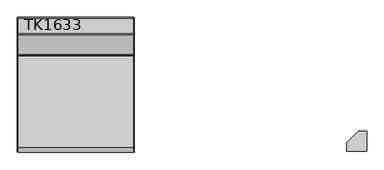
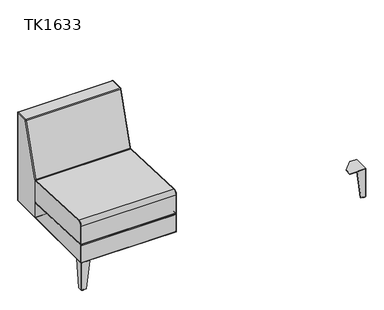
"""IFC4 building model written with IfcOpenShell, lengths in millimetres: furniture geometry, JSI-Teekan-Three_Seat_Lounge : TK1633."""

from ifc_helpers import new_model, si_unit, point, frame, origin, place, context, project, spatial, polyline, circle_curve, ellipse_curve, trimmed, outline, extrude, source, transform, mapped, element, save
from ifc_brep_helpers import plane_surface, cylinder_surface, revolved_surface, spline_surface, advanced_brep


def tk1633_d6f510f4(model_context):
    return source(origin(), model_context, "Body", "SolidModel", [
        advanced_brep(
        [(-304.9984375, 148.7693192, 295.6513391), (-304.9984375, 153.733973, 300.4095468), (-302.6171875, 151.352723, 300.4095468), (-302.6171875, 148.8703961, 298.0304429), (-905.4703125, 148.7693192, 295.6513391), (-905.4703125, 153.733973, 300.4095468), (-907.8515625, 148.8703961, 298.0304429), (-907.8515625, 151.352723, 300.4095468), (-302.6171875, -344.5512855, 318.9936072), (-304.9984375, -344.6523625, 316.6145034), (-905.4703125, -344.6523625, 316.6145034), (-907.8515625, -344.5512855, 318.9936072), (-304.9984375, -322.7527962, 467.50355), (-302.6171875, -322.8538731, 465.1244462), (-302.6171875, 149.0725499, 445.0745142), (-304.9984375, 149.1736269, 447.4536181), (-905.4703125, 149.1736269, 447.4536181), (-905.4703125, -322.7527962, 467.50355), (-907.8515625, 149.0725499, 445.0745142), (-907.8515625, -322.8538731, 465.1244462), (-302.6171875, 151.352723, 442.6954104), (-304.9984375, 153.733973, 442.6954104), (-905.4703125, 153.733973, 442.6954104), (-907.8515625, 151.352723, 442.6954104), (-302.6171875, -346.8497, 321.3917439), (-304.9984375, -349.23095, 321.3917439), (-905.4703125, -349.23095, 321.3917439), (-907.8515625, -346.8497, 321.3917439), (-302.6171875, -346.8497, 442.1264425), (-304.9984375, -349.23095, 442.1264425), (-905.4703125, -349.23095, 442.1264425), (-907.8515625, -346.8497, 442.1264425)],
        [
            (0, 1, circle_curve(frame((-304.9984375, 148.971473, 300.4095468), z_axis=(1.0, 0.0, 0.0), x_axis=(0.0, 1.0, 0.0)), 4.7625)),
            (1, 2, circle_curve(frame((-304.9984375, 151.352723, 300.4095468), z_axis=(0.0, 0.0, -1.0), x_axis=(1.0, 0.0, 0.0)), 2.38125)),
            (2, 3, circle_curve(frame((-302.6171875, 148.971473, 300.4095468), z_axis=(-1.0, 0.0, 0.0), x_axis=(0.0, 1.0, 0.0)), 2.38125)),
            (3, 0, circle_curve(frame((-304.9984375, 148.8703961, 298.0304429), z_axis=(0.0, 0.9990987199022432, -0.04244700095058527), x_axis=(1.0, 0.0, 0.0)), 2.38125)),
            (0, 4),
            (4, 5, circle_curve(frame((-905.4703125, 148.971473, 300.4095468), z_axis=(1.0, 0.0, 0.0), x_axis=(0.0, 1.0, 0.0)), 4.7625)),
            (5, 1),
            (4, 6, circle_curve(frame((-905.4703125, 148.8703961, 298.0304429), z_axis=(0.0, 0.999098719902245, -0.042447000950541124), x_axis=(1.0, 0.0, 0.0)), 2.38125)),
            (6, 7, circle_curve(frame((-907.8515625, 148.971473, 300.4095468), z_axis=(1.0, 0.0, 0.0), x_axis=(0.0, 1.0, 0.0)), 2.38125)),
            (7, 5, circle_curve(frame((-905.4703125, 151.352723, 300.4095468), z_axis=(0.0, 0.0, -1.0), x_axis=(1.0, 0.0, 0.0)), 2.38125)),
            (3, 8),
            (8, 9, circle_curve(frame((-304.9984375, -344.5512855, 318.9936072), z_axis=(0.0, 0.9990987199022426, -0.04244700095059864), x_axis=(1.0, 0.0, 0.0)), 2.38125)),
            (9, 0),
            (9, 10),
            (10, 4),
            (10, 11, circle_curve(frame((-905.4703125, -344.5512855, 318.9936072), z_axis=(0.0, 0.9990987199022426, -0.04244700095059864), x_axis=(1.0, 0.0, 0.0)), 2.38125)),
            (11, 6),
            (12, 13, circle_curve(frame((-304.9984375, -322.8538731, 465.1244462), z_axis=(0.0, 0.9990987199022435, -0.0424470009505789), x_axis=(1.0, 0.0, 0.0)), 2.38125)),
            (13, 14),
            (14, 15, circle_curve(frame((-304.9984375, 149.0725499, 445.0745142), z_axis=(0.0, -0.9990987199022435, 0.0424470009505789), x_axis=(1.0, 0.0, 0.0)), 2.38125)),
            (15, 12),
            (15, 16),
            (16, 17),
            (17, 12),
            (16, 18, circle_curve(frame((-905.4703125, 149.0725499, 445.0745142), z_axis=(0.0, -0.9990987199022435, 0.0424470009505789), x_axis=(1.0, 0.0, 0.0)), 2.38125)),
            (18, 19),
            (19, 17, circle_curve(frame((-905.4703125, -322.8538731, 465.1244462), z_axis=(0.0, 0.9990987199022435, -0.0424470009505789), x_axis=(1.0, 0.0, 0.0)), 2.38125)),
            (14, 20, circle_curve(frame((-302.6171875, 148.971473, 442.6954104), z_axis=(-1.0, 0.0, 0.0), x_axis=(0.0, 0.04244700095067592, 0.9990987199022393)), 2.38125)),
            (20, 21, circle_curve(frame((-304.9984375, 151.352723, 442.6954104), z_axis=(0.0, 0.0, 1.0), x_axis=(1.0, 0.0, 0.0)), 2.38125)),
            (21, 15, circle_curve(frame((-304.9984375, 148.971473, 442.6954104), z_axis=(1.0, 0.0, 0.0), x_axis=(0.0, 0.04244700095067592, 0.9990987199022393)), 4.7625)),
            (21, 22),
            (22, 16, circle_curve(frame((-905.4703125, 148.971473, 442.6954104), z_axis=(1.0, 0.0, 0.0), x_axis=(0.0, 0.04244700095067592, 0.9990987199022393)), 4.7625)),
            (22, 23, circle_curve(frame((-905.4703125, 151.352723, 442.6954104), z_axis=(0.0, 0.0, 1.0), x_axis=(1.0, 0.0, 0.0)), 2.38125)),
            (23, 18, circle_curve(frame((-907.8515625, 148.971473, 442.6954104), z_axis=(1.0, 0.0, 0.0), x_axis=(0.0, 0.04244700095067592, 0.9990987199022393)), 2.38125)),
            (1, 21),
            (20, 2),
            (5, 22),
            (7, 23),
            (8, 24, circle_curve(frame((-302.6171875, -344.4494, 321.3917439), z_axis=(-1.0, 0.0, 0.0), x_axis=(0.0, -0.04244700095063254, -0.9990987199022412)), 2.4003)),
            (24, 25, circle_curve(frame((-304.9984375, -346.8497, 321.3917439), z_axis=(0.0, 0.0, -1.0), x_axis=(1.0, 0.0, 0.0)), 2.38125)),
            (25, 9, circle_curve(frame((-304.9984375, -344.4494, 321.3917439), z_axis=(1.0, 0.0, 0.0), x_axis=(0.0, -0.04244700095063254, -0.9990987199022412)), 4.78155)),
            (25, 26),
            (26, 10, circle_curve(frame((-905.4703125, -344.4494, 321.3917439), z_axis=(1.0, 0.0, 0.0), x_axis=(0.0, -0.04244700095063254, -0.9990987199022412)), 4.78155)),
            (26, 27, circle_curve(frame((-905.4703125, -346.8497, 321.3917439), z_axis=(0.0, 0.0, -1.0), x_axis=(1.0, 0.0, 0.0)), 2.38125)),
            (27, 11, circle_curve(frame((-907.8515625, -344.4494, 321.3917439), z_axis=(1.0, 0.0, 0.0), x_axis=(0.0, -0.04244700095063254, -0.9990987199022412)), 2.4003)),
            (24, 28),
            (28, 29, circle_curve(frame((-304.9984375, -346.8497, 442.1264425), z_axis=(0.0, 0.0, -1.0), x_axis=(1.0, 0.0, 0.0)), 2.38125)),
            (29, 25),
            (29, 30),
            (30, 26),
            (30, 31, circle_curve(frame((-905.4703125, -346.8497, 442.1264425), z_axis=(0.0, 0.0, -1.0), x_axis=(1.0, 0.0, 0.0)), 2.38125)),
            (31, 27),
            (13, 28, circle_curve(frame((-302.6171875, -323.83095, 442.1264425), z_axis=(1.0, 0.0, 0.0), x_axis=(0.0, -1.0, 0.0)), 23.01875)),
            (12, 29, circle_curve(frame((-304.9984375, -323.83095, 442.1264425), z_axis=(1.0, 0.0, 0.0), x_axis=(0.0, -1.0, 0.0)), 25.4)),
            (17, 30, circle_curve(frame((-905.4703125, -323.83095, 442.1264425), z_axis=(1.0, 0.0, 0.0), x_axis=(0.0, -1.0, 0.0)), 25.4)),
            (19, 31, circle_curve(frame((-907.8515625, -323.83095, 442.1264425), z_axis=(1.0, 0.0, 0.0), x_axis=(0.0, -1.0, 0.0)), 23.01875)),
        ],
        [
            revolved_surface(trimmed(ellipse_curve(frame((-304.9984375, 151.352723, 300.4095468), z_axis=(0.0, 0.0, 1.0), x_axis=(1.0, 0.0, 0.0)), 2.38125, 2.38125), [point((-302.6171875, 151.352723, 300.4095468))], [point((-304.9984375, 153.733973, 300.4095468))], True, "CARTESIAN"), (-605.234375, 148.971473, 300.4095468), (-1.0, 0.0, 0.0)),
            cylinder_surface(frame((-605.234375, 148.971473, 300.4095468), z_axis=(-1.0, 0.0, 0.0), x_axis=(0.0, 1.0, 0.0)), 4.7625),
            revolved_surface(trimmed(ellipse_curve(frame((-905.4703125, 151.352723, 300.4095468), z_axis=(0.0, 0.0, 1.0), x_axis=(1.0, 0.0, 0.0)), 2.38125, 2.38125), [point((-905.4703125, 153.733973, 300.4095468))], [point((-907.8515625, 151.352723, 300.4095468))], True, "CARTESIAN"), (-605.234375, 148.971473, 300.4095468), (-1.0, 0.0, 0.0)),
            cylinder_surface(frame((-304.9984375, 148.8703961, 298.0304429), z_axis=(0.0, 0.9990987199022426, -0.04244700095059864), x_axis=(1.0, 0.0, 0.0)), 2.38125),
            plane_surface(frame((-304.9984375, 148.7693192, 295.6513391), z_axis=(0.0, -0.04244700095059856, -0.9990987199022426), x_axis=(0.0, -0.9990987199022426, 0.04244700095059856))),
            cylinder_surface(frame((-905.4703125, 148.8703961, 298.0304429), z_axis=(0.0, 0.9990987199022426, -0.04244700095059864), x_axis=(1.0, 0.0, 0.0)), 2.38125),
            cylinder_surface(frame((-304.9984375, -322.8538731, 465.1244462), z_axis=(0.0, -0.9990987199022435, 0.0424470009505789), x_axis=(1.0, 0.0, 0.0)), 2.38125),
            plane_surface(frame((-304.9984375, -322.7527962, 467.50355), z_axis=(0.0, 0.04244700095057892, 0.9990987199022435), x_axis=(0.0, 0.9990987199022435, -0.04244700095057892))),
            cylinder_surface(frame((-905.4703125, -322.8538731, 465.1244462), z_axis=(0.0, -0.9990987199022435, 0.0424470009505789), x_axis=(1.0, 0.0, 0.0)), 2.38125),
            revolved_surface(trimmed(ellipse_curve(frame((-304.9984375, 149.0725499, 445.0745142), z_axis=(0.0, -0.9990987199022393, 0.04244700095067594), x_axis=(1.0, 0.0, 0.0)), 2.38125, 2.38125), [point((-302.6171875, 149.0725499, 445.0745142))], [point((-304.9984375, 149.1736269, 447.4536181))], True, "CARTESIAN"), (-605.234375, 148.971473, 442.6954104), (-1.0, 0.0, 0.0)),
            cylinder_surface(frame((-605.234375, 148.971473, 442.6954104), z_axis=(-1.0, 0.0, 0.0), x_axis=(0.0, 0.04244700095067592, 0.9990987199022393)), 4.7625),
            revolved_surface(trimmed(ellipse_curve(frame((-905.4703125, 149.0725499, 445.0745142), z_axis=(0.0, -0.9990987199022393, 0.04244700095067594), x_axis=(1.0, 0.0, 0.0)), 2.38125, 2.38125), [point((-905.4703125, 149.1736269, 447.4536181))], [point((-907.8515625, 149.0725499, 445.0745142))], True, "CARTESIAN"), (-605.234375, 148.971473, 442.6954104), (-1.0, 0.0, 0.0)),
            cylinder_surface(frame((-304.9984375, 151.352723, 442.6954104), z_axis=(0.0, 0.0, 1.0), x_axis=(1.0, 0.0, 0.0)), 2.38125),
            plane_surface(frame((-304.9984375, 153.733973, 442.6954104), z_axis=(0.0, 1.0, 0.0), x_axis=(0.0, 0.0, -1.0))),
            cylinder_surface(frame((-905.4703125, 151.352723, 442.6954104), z_axis=(0.0, 0.0, 1.0), x_axis=(1.0, 0.0, 0.0)), 2.38125),
            revolved_surface(trimmed(ellipse_curve(frame((-304.9984375, -344.5512855, 318.9936072), z_axis=(0.0, 0.9990987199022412, -0.042447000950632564), x_axis=(1.0, 0.0, 0.0)), 2.38125, 2.38125), [point((-302.6171875, -344.5512855, 318.9936072))], [point((-304.9984375, -344.6523625, 316.6145034))], True, "CARTESIAN"), (-605.234375, -344.4494, 321.3917439), (-1.0, 0.0, 0.0)),
            cylinder_surface(frame((-605.234375, -344.4494, 321.3917439), z_axis=(-1.0, 0.0, 0.0), x_axis=(0.0, -0.04244700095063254, -0.9990987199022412)), 4.78155),
            revolved_surface(trimmed(ellipse_curve(frame((-905.4703125, -344.5512855, 318.9936072), z_axis=(0.0, 0.9990987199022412, -0.042447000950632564), x_axis=(1.0, 0.0, 0.0)), 2.38125, 2.38125), [point((-905.4703125, -344.6523625, 316.6145034))], [point((-907.8515625, -344.5512855, 318.9936072))], True, "CARTESIAN"), (-605.234375, -344.4494, 321.3917439), (-1.0, 0.0, 0.0)),
            cylinder_surface(frame((-304.9984375, -346.8497, 321.3917439), z_axis=(0.0, 0.0, -1.0), x_axis=(1.0, 0.0, 0.0)), 2.38125),
            plane_surface(frame((-304.9984375, -349.23095, 321.3917439), z_axis=(0.0, -1.0, 0.0), x_axis=(0.0, 0.0, 1.0))),
            cylinder_surface(frame((-905.4703125, -346.8497, 321.3917439), z_axis=(0.0, 0.0, -1.0), x_axis=(1.0, 0.0, 0.0)), 2.38125),
            plane_surface(frame((-302.6171875, -323.83095, 442.1264425), z_axis=(1.0, 0.0, 0.0), x_axis=(0.0, -1.0, 0.0))),
            revolved_surface(trimmed(ellipse_curve(frame((-304.9984375, -346.8497, 442.1264425), z_axis=(0.0, 0.0, -1.0), x_axis=(1.0, 0.0, 0.0)), 2.38125, 2.38125), [point((-302.6171875, -346.8497, 442.1264425))], [point((-304.9984375, -349.23095, 442.1264425))], True, "CARTESIAN"), (-605.234375, -323.83095, 442.1264425), (-1.0, 0.0, 0.0)),
            cylinder_surface(frame((-605.234375, -323.83095, 442.1264425), z_axis=(-1.0, 0.0, 0.0), x_axis=(0.0, -1.0, 0.0)), 25.4),
            revolved_surface(trimmed(ellipse_curve(frame((-905.4703125, -346.8497, 442.1264425), z_axis=(0.0, 0.0, -1.0), x_axis=(1.0, 0.0, 0.0)), 2.38125, 2.38125), [point((-905.4703125, -349.23095, 442.1264425))], [point((-907.8515625, -346.8497, 442.1264425))], True, "CARTESIAN"), (-605.234375, -323.83095, 442.1264425), (-1.0, 0.0, 0.0)),
            plane_surface(frame((-907.8515625, -323.83095, 442.1264425), z_axis=(-1.0, 0.0, 0.0), x_axis=(0.0, -1.0, 0.0))),
        ],
        [
            (0, [[1, 2, 3, 4]]),
            (1, [[-1, 5, 6, 7]]),
            (2, [[-6, 8, 9, 10]]),
            (3, [[-4, 11, 12, 13]]),
            (4, [[-5, -13, 14, 15]]),
            (5, [[-8, -15, 16, 17]]),
            (6, [[18, 19, 20, 21]]),
            (7, [[-21, 22, 23, 24]]),
            (8, [[-23, 25, 26, 27]]),
            (9, [[-20, 28, 29, 30]]),
            (10, [[-22, -30, 31, 32]]),
            (11, [[-25, -32, 33, 34]]),
            (12, [[-2, 35, -29, 36]]),
            (13, [[-7, 37, -31, -35]]),
            (14, [[-10, 38, -33, -37]]),
            (15, [[-12, 39, 40, 41]]),
            (16, [[-14, -41, 42, 43]]),
            (17, [[-16, -43, 44, 45]]),
            (18, [[-40, 46, 47, 48]]),
            (19, [[-42, -48, 49, 50]]),
            (20, [[-44, -50, 51, 52]]),
            (21, [[-3, -36, -28, -19, 53, -46, -39, -11]]),
            (22, [[-18, 54, -47, -53]]),
            (23, [[-24, 55, -49, -54]]),
            (24, [[-27, 56, -51, -55]]),
            (25, [[-9, -17, -45, -52, -56, -26, -34, -38]]),
        ],
    ),
        advanced_brep(
        [(-905.4703125, -349.25, 197.5346851), (-304.9984375, -349.25, 197.5346851), (-304.9984375, -349.25, 311.8407029), (-905.4703125, -349.25, 311.8407029), (-907.8515625, -346.86875, 311.8407029), (-907.8515625, -346.86875, 197.5346851), (-302.6171875, -346.86875, 197.5346851), (-302.6171875, -346.86875, 311.8407029), (-905.4703125, -344.2853462, 316.5989106), (-304.9984375, -344.2853462, 316.5989106), (-304.9984375, 149.169864, 295.6343219), (-905.4703125, 149.169864, 295.6343219), (-907.8515625, 149.0687871, 293.255218), (-907.8515625, -344.3864231, 314.2198068), (-302.6171875, -344.3864231, 314.2198068), (-302.6171875, 149.0687871, 293.255218), (-304.9984375, 153.7302102, 290.8761142), (-905.4703125, 153.7302102, 290.8761142), (-907.8515625, 151.3489602, 290.8761142), (-302.6171875, 151.3489602, 290.8761142), (-304.9984375, 153.7302102, 197.5346851), (-905.4703125, 153.7302102, 197.5346851), (-907.8515625, 151.3489602, 197.5346851), (-302.6171875, 151.3489602, 197.5346851), (-304.9984375, 148.9677102, 192.7721851), (-905.4703125, 148.9677102, 192.7721851), (-907.8515625, 148.9677102, 195.1534351), (-302.6171875, 148.9677102, 195.1534351), (-304.9984375, -344.4875, 192.7721851), (-905.4703125, -344.4875, 192.7721851), (-907.8515625, -344.4875, 195.1534351), (-302.6171875, -344.4875, 195.1534351)],
        [
            (0, 1),
            (1, 2),
            (2, 3),
            (3, 0),
            (3, 4, circle_curve(frame((-905.4703125, -346.86875, 311.8407029), z_axis=(0.0, 0.0, -1.0), x_axis=(0.0, -1.0, 0.0)), 2.38125)),
            (4, 5),
            (5, 0, circle_curve(frame((-905.4703125, -346.86875, 197.5346851), z_axis=(0.0, 0.0, 1.0), x_axis=(0.0, -1.0, 0.0)), 2.38125)),
            (1, 6, circle_curve(frame((-304.9984375, -346.86875, 197.5346851), z_axis=(0.0, 0.0, 1.0), x_axis=(0.0, -1.0, 0.0)), 2.38125)),
            (6, 7),
            (7, 2, circle_curve(frame((-304.9984375, -346.86875, 311.8407029), z_axis=(0.0, 0.0, -1.0), x_axis=(0.0, -1.0, 0.0)), 2.38125)),
            (8, 9),
            (9, 10),
            (10, 11),
            (11, 8),
            (11, 12, circle_curve(frame((-905.4703125, 149.0687871, 293.255218), z_axis=(0.0, -0.9990987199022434, 0.04244700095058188), x_axis=(0.0, 0.04244700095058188, 0.9990987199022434)), 2.38125)),
            (12, 13),
            (13, 8, circle_curve(frame((-905.4703125, -344.3864231, 314.2198068), z_axis=(0.0, 0.9990987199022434, -0.04244700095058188), x_axis=(0.0, 0.04244700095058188, 0.9990987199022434)), 2.38125)),
            (9, 14, circle_curve(frame((-304.9984375, -344.3864231, 314.2198068), z_axis=(0.0, 0.9990987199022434, -0.04244700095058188), x_axis=(0.0, 0.04244700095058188, 0.9990987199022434)), 2.38125)),
            (14, 15),
            (15, 10, circle_curve(frame((-304.9984375, 149.0687871, 293.255218), z_axis=(0.0, -0.9990987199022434, 0.04244700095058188), x_axis=(0.0, 0.04244700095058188, 0.9990987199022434)), 2.38125)),
            (10, 16, circle_curve(frame((-304.9984375, 148.9677102, 290.8761142), z_axis=(-1.0, 0.0, 0.0), x_axis=(0.0, 0.0424470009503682, 0.9990987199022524)), 4.7625)),
            (16, 17),
            (17, 11, circle_curve(frame((-905.4703125, 148.9677102, 290.8761142), z_axis=(1.0, 0.0, 0.0), x_axis=(0.0, 0.0424470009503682, 0.9990987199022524)), 4.7625)),
            (17, 18, circle_curve(frame((-905.4703125, 151.3489602, 290.8761142), z_axis=(0.0, 0.0, 1.0), x_axis=(0.0, 1.0, 0.0)), 2.38125)),
            (18, 12, circle_curve(frame((-907.8515625, 148.9677102, 290.8761142), z_axis=(1.0, 0.0, 0.0), x_axis=(0.0, 0.0424470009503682, 0.9990987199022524)), 2.38125)),
            (15, 19, circle_curve(frame((-302.6171875, 148.9677102, 290.8761142), z_axis=(-1.0, 0.0, 0.0), x_axis=(0.0, 0.0424470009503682, 0.9990987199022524)), 2.38125)),
            (19, 16, circle_curve(frame((-304.9984375, 151.3489602, 290.8761142), z_axis=(0.0, 0.0, 1.0), x_axis=(0.0, 1.0, 0.0)), 2.38125)),
            (16, 20),
            (20, 21),
            (21, 17),
            (21, 22, circle_curve(frame((-905.4703125, 151.3489602, 197.5346851), z_axis=(0.0, 0.0, 1.0), x_axis=(0.0, 1.0, 0.0)), 2.38125)),
            (22, 18),
            (19, 23),
            (23, 20, circle_curve(frame((-304.9984375, 151.3489602, 197.5346851), z_axis=(0.0, 0.0, 1.0), x_axis=(0.0, 1.0, 0.0)), 2.38125)),
            (20, 24, circle_curve(frame((-304.9984375, 148.9677102, 197.5346851), z_axis=(-1.0, 0.0, 0.0), x_axis=(0.0, 1.0, 0.0)), 4.7625)),
            (24, 25),
            (25, 21, circle_curve(frame((-905.4703125, 148.9677102, 197.5346851), z_axis=(1.0, 0.0, 0.0), x_axis=(0.0, 1.0, 0.0)), 4.7625)),
            (25, 26, circle_curve(frame((-905.4703125, 148.9677102, 195.1534351), z_axis=(0.0, 1.0, 0.0), x_axis=(0.0, 0.0, -1.0)), 2.38125)),
            (26, 22, circle_curve(frame((-907.8515625, 148.9677102, 197.5346851), z_axis=(1.0, 0.0, 0.0), x_axis=(0.0, 1.0, 0.0)), 2.38125)),
            (23, 27, circle_curve(frame((-302.6171875, 148.9677102, 197.5346851), z_axis=(-1.0, 0.0, 0.0), x_axis=(0.0, 1.0, 0.0)), 2.38125)),
            (27, 24, circle_curve(frame((-304.9984375, 148.9677102, 195.1534351), z_axis=(0.0, 1.0, 0.0), x_axis=(0.0, 0.0, -1.0)), 2.38125)),
            (24, 28),
            (28, 29),
            (29, 25),
            (29, 30, circle_curve(frame((-905.4703125, -344.4875, 195.1534351), z_axis=(0.0, 1.0, 0.0), x_axis=(0.0, 0.0, -1.0)), 2.38125)),
            (30, 26),
            (27, 31),
            (31, 28, circle_curve(frame((-304.9984375, -344.4875, 195.1534351), z_axis=(0.0, 1.0, 0.0), x_axis=(0.0, 0.0, -1.0)), 2.38125)),
            (0, 29, circle_curve(frame((-905.4703125, -344.4875, 197.5346851), z_axis=(1.0, 0.0, 0.0), x_axis=(0.0, 0.0, -1.0)), 4.7625)),
            (28, 1, circle_curve(frame((-304.9984375, -344.4875, 197.5346851), z_axis=(-1.0, 0.0, 0.0), x_axis=(0.0, 0.0, -1.0)), 4.7625)),
            (5, 30, circle_curve(frame((-907.8515625, -344.4875, 197.5346851), z_axis=(1.0, 0.0, 0.0), x_axis=(0.0, 0.0, -1.0)), 2.38125)),
            (31, 6, circle_curve(frame((-302.6171875, -344.4875, 197.5346851), z_axis=(-1.0, 0.0, 0.0), x_axis=(0.0, 0.0, -1.0)), 2.38125)),
            (2, 9, circle_curve(frame((-304.9984375, -344.4875, 311.8407029), z_axis=(-1.0, 0.0, 0.0), x_axis=(0.0, -1.0, 0.0)), 4.7625)),
            (8, 3, circle_curve(frame((-905.4703125, -344.4875, 311.8407029), z_axis=(1.0, 0.0, 0.0), x_axis=(0.0, -1.0, 0.0)), 4.7625)),
            (13, 4, circle_curve(frame((-907.8515625, -344.4875, 311.8407029), z_axis=(1.0, 0.0, 0.0), x_axis=(0.0, -1.0, 0.0)), 2.38125)),
            (14, 7, circle_curve(frame((-302.6171875, -344.4875, 311.8407029), z_axis=(1.0, 0.0, 0.0), x_axis=(0.0, -1.0, 0.0)), 2.38125)),
        ],
        [
            plane_surface(frame((-304.9984375, -349.25, 197.5346851), z_axis=(0.0, -1.0, 0.0), x_axis=(0.0, 0.0, 1.0))),
            cylinder_surface(frame((-905.4703125, -346.86875, 197.5346851), z_axis=(0.0, 0.0, -1.0), x_axis=(0.0, -1.0, 0.0)), 2.38125),
            cylinder_surface(frame((-304.9984375, -346.86875, 197.5346851), z_axis=(0.0, 0.0, -1.0), x_axis=(0.0, -1.0, 0.0)), 2.38125),
            plane_surface(frame((-304.9984375, -344.2853462, 316.5989106), z_axis=(0.0, 0.04244700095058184, 0.9990987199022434), x_axis=(0.0, 0.9990987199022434, -0.04244700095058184))),
            cylinder_surface(frame((-905.4703125, -344.3864231, 314.2198068), z_axis=(0.0, -0.9990987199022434, 0.04244700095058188), x_axis=(0.0, 0.04244700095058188, 0.9990987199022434)), 2.38125),
            cylinder_surface(frame((-304.9984375, -344.3864231, 314.2198068), z_axis=(0.0, -0.9990987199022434, 0.04244700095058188), x_axis=(0.0, 0.04244700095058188, 0.9990987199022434)), 2.38125),
            cylinder_surface(frame((-605.234375, 148.9677102, 290.8761142), z_axis=(-1.0, 0.0, 0.0), x_axis=(0.0, 0.0424470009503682, 0.9990987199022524)), 4.7625),
            revolved_surface(trimmed(ellipse_curve(frame((-905.4703125, 149.0687871, 293.255218), z_axis=(0.0, -0.9990987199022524, 0.042447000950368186), x_axis=(0.0, 0.042447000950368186, 0.9990987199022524)), 2.38125, 2.38125), [point((-905.4703125, 149.169864, 295.6343219))], [point((-907.8515625, 149.0687871, 293.255218))], True, "CARTESIAN"), (-605.234375, 148.9677102, 290.8761142), (-1.0, 0.0, 0.0)),
            revolved_surface(trimmed(ellipse_curve(frame((-304.9984375, 149.0687871, 293.255218), z_axis=(0.0, -0.9990987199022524, 0.042447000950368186), x_axis=(0.0, 0.042447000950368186, 0.9990987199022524)), 2.38125, 2.38125), [point((-302.6171875, 149.0687871, 293.255218))], [point((-304.9984375, 149.169864, 295.6343219))], True, "CARTESIAN"), (-605.234375, 148.9677102, 290.8761142), (-1.0, 0.0, 0.0)),
            plane_surface(frame((-304.9984375, 153.7302102, 290.8761142), z_axis=(0.0, 1.0, 0.0), x_axis=(0.0, 0.0, -1.0))),
            cylinder_surface(frame((-905.4703125, 151.3489602, 290.8761142), z_axis=(0.0, 0.0, 1.0), x_axis=(0.0, 1.0, 0.0)), 2.38125),
            cylinder_surface(frame((-304.9984375, 151.3489602, 290.8761142), z_axis=(0.0, 0.0, 1.0), x_axis=(0.0, 1.0, 0.0)), 2.38125),
            cylinder_surface(frame((-605.234375, 148.9677102, 197.5346851), z_axis=(-1.0, 0.0, 0.0), x_axis=(0.0, 1.0, 0.0)), 4.7625),
            revolved_surface(trimmed(ellipse_curve(frame((-905.4703125, 151.3489602, 197.5346851), z_axis=(0.0, 0.0, 1.0), x_axis=(0.0, 1.0, 0.0)), 2.38125, 2.38125), [point((-905.4703125, 153.7302102, 197.5346851))], [point((-907.8515625, 151.3489602, 197.5346851))], True, "CARTESIAN"), (-605.234375, 148.9677102, 197.5346851), (-1.0, 0.0, 0.0)),
            revolved_surface(trimmed(ellipse_curve(frame((-304.9984375, 151.3489602, 197.5346851), z_axis=(0.0, 0.0, 1.0), x_axis=(0.0, 1.0, 0.0)), 2.38125, 2.38125), [point((-302.6171875, 151.3489602, 197.5346851))], [point((-304.9984375, 153.7302102, 197.5346851))], True, "CARTESIAN"), (-605.234375, 148.9677102, 197.5346851), (-1.0, 0.0, 0.0)),
            plane_surface(frame((-304.9984375, 148.9677102, 192.7721851), z_axis=(0.0, 0.0, -1.0), x_axis=(0.0, -1.0, 0.0))),
            cylinder_surface(frame((-905.4703125, 148.9677102, 195.1534351), z_axis=(0.0, 1.0, 0.0), x_axis=(0.0, 0.0, -1.0)), 2.38125),
            cylinder_surface(frame((-304.9984375, 148.9677102, 195.1534351), z_axis=(0.0, 1.0, 0.0), x_axis=(0.0, 0.0, -1.0)), 2.38125),
            cylinder_surface(frame((-605.234375, -344.4875, 197.5346851), z_axis=(-1.0, 0.0, 0.0), x_axis=(0.0, 0.0, -1.0)), 4.7625),
            revolved_surface(trimmed(ellipse_curve(frame((-905.4703125, -344.4875, 195.1534351), z_axis=(0.0, 1.0, 0.0), x_axis=(0.0, 0.0, -1.0)), 2.38125, 2.38125), [point((-905.4703125, -344.4875, 192.7721851))], [point((-907.8515625, -344.4875, 195.1534351))], True, "CARTESIAN"), (-605.234375, -344.4875, 197.5346851), (-1.0, 0.0, 0.0)),
            revolved_surface(trimmed(ellipse_curve(frame((-304.9984375, -344.4875, 195.1534351), z_axis=(0.0, 1.0, 0.0), x_axis=(0.0, 0.0, -1.0)), 2.38125, 2.38125), [point((-302.6171875, -344.4875, 195.1534351))], [point((-304.9984375, -344.4875, 192.7721851))], True, "CARTESIAN"), (-605.234375, -344.4875, 197.5346851), (-1.0, 0.0, 0.0)),
            cylinder_surface(frame((-605.234375, -344.4875, 311.8407029), z_axis=(-1.0, 0.0, 0.0), x_axis=(0.0, -1.0, 0.0)), 4.7625),
            revolved_surface(trimmed(ellipse_curve(frame((-905.4703125, -346.86875, 311.8407029), z_axis=(0.0, 0.0, -1.0), x_axis=(0.0, -1.0, 0.0)), 2.38125, 2.38125), [point((-905.4703125, -349.25, 311.8407029))], [point((-907.8515625, -346.86875, 311.8407029))], True, "CARTESIAN"), (-605.234375, -344.4875, 311.8407029), (-1.0, 0.0, 0.0)),
            plane_surface(frame((-907.8515625, -344.4875, 311.8407029), z_axis=(-1.0, 0.0, 0.0), x_axis=(0.0, -1.0, 0.0))),
            plane_surface(frame((-302.6171875, -344.4875, 311.8407029), z_axis=(1.0, 0.0, 0.0), x_axis=(0.0, -1.0, 0.0))),
            revolved_surface(trimmed(ellipse_curve(frame((-304.9984375, -346.86875, 311.8407029), z_axis=(0.0, 0.0, -1.0), x_axis=(0.0, -1.0, 0.0)), 2.38125, 2.38125), [point((-302.6171875, -346.86875, 311.8407029))], [point((-304.9984375, -349.25, 311.8407029))], True, "CARTESIAN"), (-605.234375, -344.4875, 311.8407029), (-1.0, 0.0, 0.0)),
        ],
        [
            (0, [[1, 2, 3, 4]]),
            (1, [[-4, 5, 6, 7]]),
            (2, [[-2, 8, 9, 10]]),
            (3, [[11, 12, 13, 14]]),
            (4, [[-14, 15, 16, 17]]),
            (5, [[-12, 18, 19, 20]]),
            (6, [[-13, 21, 22, 23]]),
            (7, [[-15, -23, 24, 25]]),
            (8, [[-20, 26, 27, -21]]),
            (9, [[-22, 28, 29, 30]]),
            (10, [[-24, -30, 31, 32]]),
            (11, [[-27, 33, 34, -28]]),
            (12, [[-29, 35, 36, 37]]),
            (13, [[-31, -37, 38, 39]]),
            (14, [[-34, 40, 41, -35]]),
            (15, [[-36, 42, 43, 44]]),
            (16, [[-38, -44, 45, 46]]),
            (17, [[-41, 47, 48, -42]]),
            (18, [[-1, 49, -43, 50]]),
            (19, [[-7, 51, -45, -49]]),
            (20, [[-8, -50, -48, 52]]),
            (21, [[-3, 53, -11, 54]]),
            (22, [[-5, -54, -17, 55]]),
            (23, [[-6, -55, -16, -25, -32, -39, -46, -51]]),
            (24, [[-9, -52, -47, -40, -33, -26, -19, 56]]),
            (25, [[-10, -56, -18, -53]]),
        ],
    ),
        advanced_brep(
        [(-302.6171875, 261.4671324, 783.3496278), (-302.6171875, 263.7394056, 785.01875), (-304.9984375, 263.7394056, 787.4), (-304.9984375, 259.1948592, 784.0617556), (-905.4703125, 259.1948592, 784.0617556), (-905.4703125, 263.7394056, 787.4), (-907.8515625, 263.7394056, 785.01875), (-907.8515625, 261.4671324, 783.3496278), (-304.9984375, 155.07802, 451.8434221), (-302.6171875, 157.3502932, 451.1312943), (-907.8515625, 157.3502932, 451.1312943), (-905.4703125, 155.07802, 451.8434221), (-304.9984375, 153.733973, 443.0605128), (-302.6171875, 156.115223, 443.0605128), (-907.8515625, 156.115223, 443.0605128), (-905.4703125, 153.733973, 443.0605128), (-304.9984375, 153.733973, 197.5346851), (-302.6171875, 156.115223, 197.5346851), (-907.8515625, 156.115223, 197.5346851), (-905.4703125, 153.733973, 197.5346851), (-304.9984375, 158.496473, 192.7721851), (-302.6171875, 158.496473, 195.1534351), (-907.8515625, 158.496473, 195.1534351), (-905.4703125, 158.496473, 192.7721851), (-304.9984375, 344.4875, 192.7721851), (-302.6171875, 344.4875, 195.1534351), (-907.8515625, 344.4875, 195.1534351), (-905.4703125, 344.4875, 192.7721851), (-304.9984375, 349.25, 197.5346851), (-302.6171875, 346.86875, 197.5346851), (-907.8515625, 346.86875, 197.5346851), (-905.4703125, 349.25, 197.5346851), (-304.9984375, 349.25, 782.6375), (-302.6171875, 346.86875, 782.6375), (-907.8515625, 346.86875, 782.6375), (-905.4703125, 349.25, 782.6375), (-304.9984375, 344.4875, 787.4), (-302.6171875, 344.4875, 785.01875), (-907.8515625, 344.4875, 785.01875), (-905.4703125, 344.4875, 787.4)],
        [
            (0, 1, circle_curve(frame((-302.6171875, 263.7394056, 782.6375), z_axis=(-1.0, 0.0, 0.0), x_axis=(0.0, 0.0, 1.0)), 2.38125)),
            (1, 2, circle_curve(frame((-304.9984375, 263.7394056, 785.01875), z_axis=(0.0, -1.0, 0.0), x_axis=(0.0, 0.0, -1.0)), 2.38125)),
            (2, 3, circle_curve(frame((-304.9984375, 263.7394056, 782.6375), z_axis=(1.0, 0.0, 0.0), x_axis=(0.0, 0.0, 1.0)), 4.7625)),
            (3, 0, circle_curve(frame((-304.9984375, 261.4671324, 783.3496278), z_axis=(0.0, 0.29905628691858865, 0.9542354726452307), x_axis=(0.0, 0.9542354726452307, -0.29905628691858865)), 2.38125)),
            (4, 5, circle_curve(frame((-905.4703125, 263.7394056, 782.6375), z_axis=(-1.0, 0.0, 0.0), x_axis=(0.0, 0.0, 1.0)), 4.7625)),
            (5, 6, circle_curve(frame((-905.4703125, 263.7394056, 785.01875), z_axis=(0.0, -1.0, 0.0), x_axis=(0.0, 0.0, -1.0)), 2.38125)),
            (6, 7, circle_curve(frame((-907.8515625, 263.7394056, 782.6375), z_axis=(1.0, 0.0, 0.0), x_axis=(0.0, 0.0, 1.0)), 2.38125)),
            (7, 4, circle_curve(frame((-905.4703125, 261.4671324, 783.3496278), z_axis=(0.0, 0.29905628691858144, 0.9542354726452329), x_axis=(0.0, 0.9542354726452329, -0.29905628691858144)), 2.38125)),
            (2, 5),
            (4, 3),
            (3, 8),
            (8, 9, circle_curve(frame((-304.9984375, 157.3502932, 451.1312943), z_axis=(0.0, 0.29905628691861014, 0.954235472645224), x_axis=(0.0, 0.954235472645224, -0.29905628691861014)), 2.38125)),
            (9, 0),
            (7, 10),
            (10, 11, circle_curve(frame((-905.4703125, 157.3502932, 451.1312943), z_axis=(0.0, 0.29905628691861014, 0.954235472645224), x_axis=(0.0, 0.954235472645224, -0.29905628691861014)), 2.38125)),
            (11, 4),
            (11, 8),
            (8, 12, circle_curve(frame((-304.9984375, 183.102723, 443.0605128), z_axis=(1.0, 0.0, 0.0), x_axis=(0.0, -0.9542354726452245, 0.29905628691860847)), 29.36875)),
            (12, 13, circle_curve(frame((-304.9984375, 156.115223, 443.0605128), z_axis=(0.0, 0.0, 1.0), x_axis=(0.0, 1.0, 0.0)), 2.38125)),
            (13, 9, circle_curve(frame((-302.6171875, 183.102723, 443.0605128), z_axis=(-1.0, 0.0, 0.0), x_axis=(0.0, -0.9542354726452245, 0.29905628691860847)), 26.9875)),
            (10, 14, circle_curve(frame((-907.8515625, 183.102723, 443.0605128), z_axis=(1.0, 0.0, 0.0), x_axis=(0.0, -0.9542354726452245, 0.29905628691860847)), 26.9875)),
            (14, 15, circle_curve(frame((-905.4703125, 156.115223, 443.0605128), z_axis=(0.0, 0.0, 1.0), x_axis=(0.0, 1.0, 0.0)), 2.38125)),
            (15, 11, circle_curve(frame((-905.4703125, 183.102723, 443.0605128), z_axis=(-1.0, 0.0, 0.0), x_axis=(0.0, -0.9542354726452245, 0.29905628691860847)), 29.36875)),
            (15, 12),
            (12, 16),
            (16, 17, circle_curve(frame((-304.9984375, 156.115223, 197.5346851), z_axis=(0.0, 0.0, 1.0), x_axis=(0.0, 1.0, 0.0)), 2.38125)),
            (17, 13),
            (14, 18),
            (18, 19, circle_curve(frame((-905.4703125, 156.115223, 197.5346851), z_axis=(0.0, 0.0, 1.0), x_axis=(0.0, 1.0, 0.0)), 2.38125)),
            (19, 15),
            (19, 16),
            (16, 20, circle_curve(frame((-304.9984375, 158.496473, 197.5346851), z_axis=(1.0, 0.0, 0.0), x_axis=(0.0, -1.0, 0.0)), 4.7625)),
            (20, 21, circle_curve(frame((-304.9984375, 158.496473, 195.1534351), z_axis=(0.0, -1.0, 0.0), x_axis=(0.0, 0.0, 1.0)), 2.38125)),
            (21, 17, circle_curve(frame((-302.6171875, 158.496473, 197.5346851), z_axis=(-1.0, 0.0, 0.0), x_axis=(0.0, -1.0, 0.0)), 2.38125)),
            (18, 22, circle_curve(frame((-907.8515625, 158.496473, 197.5346851), z_axis=(1.0, 0.0, 0.0), x_axis=(0.0, -1.0, 0.0)), 2.38125)),
            (22, 23, circle_curve(frame((-905.4703125, 158.496473, 195.1534351), z_axis=(0.0, -1.0, 0.0), x_axis=(0.0, 0.0, 1.0)), 2.38125)),
            (23, 19, circle_curve(frame((-905.4703125, 158.496473, 197.5346851), z_axis=(-1.0, 0.0, 0.0), x_axis=(0.0, -1.0, 0.0)), 4.7625)),
            (23, 20),
            (20, 24),
            (24, 25, circle_curve(frame((-304.9984375, 344.4875, 195.1534351), z_axis=(0.0, -1.0, 0.0), x_axis=(0.0, 0.0, 1.0)), 2.38125)),
            (25, 21),
            (22, 26),
            (26, 27, circle_curve(frame((-905.4703125, 344.4875, 195.1534351), z_axis=(0.0, -1.0, 0.0), x_axis=(0.0, 0.0, 1.0)), 2.38125)),
            (27, 23),
            (27, 24),
            (24, 28, circle_curve(frame((-304.9984375, 344.4875, 197.5346851), z_axis=(1.0, 0.0, 0.0), x_axis=(0.0, 0.0, -1.0)), 4.7625)),
            (28, 29, circle_curve(frame((-304.9984375, 346.86875, 197.5346851), z_axis=(0.0, 0.0, -1.0), x_axis=(0.0, -1.0, 0.0)), 2.38125)),
            (29, 25, circle_curve(frame((-302.6171875, 344.4875, 197.5346851), z_axis=(-1.0, 0.0, 0.0), x_axis=(0.0, 0.0, -1.0)), 2.38125)),
            (26, 30, circle_curve(frame((-907.8515625, 344.4875, 197.5346851), z_axis=(1.0, 0.0, 0.0), x_axis=(0.0, 0.0, -1.0)), 2.38125)),
            (30, 31, circle_curve(frame((-905.4703125, 346.86875, 197.5346851), z_axis=(0.0, 0.0, -1.0), x_axis=(0.0, -1.0, 0.0)), 2.38125)),
            (31, 27, circle_curve(frame((-905.4703125, 344.4875, 197.5346851), z_axis=(-1.0, 0.0, 0.0), x_axis=(0.0, 0.0, -1.0)), 4.7625)),
            (31, 28),
            (28, 32),
            (32, 33, circle_curve(frame((-304.9984375, 346.86875, 782.6375), z_axis=(0.0, 0.0, -1.0), x_axis=(0.0, -1.0, 0.0)), 2.38125)),
            (33, 29),
            (30, 34),
            (34, 35, circle_curve(frame((-905.4703125, 346.86875, 782.6375), z_axis=(0.0, 0.0, -1.0), x_axis=(0.0, -1.0, 0.0)), 2.38125)),
            (35, 31),
            (35, 32),
            (32, 36, circle_curve(frame((-304.9984375, 344.4875, 782.6375), z_axis=(1.0, 0.0, 0.0), x_axis=(0.0, 1.0, 0.0)), 4.7625)),
            (36, 37, circle_curve(frame((-304.9984375, 344.4875, 785.01875), z_axis=(0.0, 1.0, 0.0), x_axis=(0.0, 0.0, -1.0)), 2.38125)),
            (37, 33, circle_curve(frame((-302.6171875, 344.4875, 782.6375), z_axis=(-1.0, 0.0, 0.0), x_axis=(0.0, 1.0, 0.0)), 2.38125)),
            (34, 38, circle_curve(frame((-907.8515625, 344.4875, 782.6375), z_axis=(1.0, 0.0, 0.0), x_axis=(0.0, 1.0, 0.0)), 2.38125)),
            (38, 39, circle_curve(frame((-905.4703125, 344.4875, 785.01875), z_axis=(0.0, 1.0, 0.0), x_axis=(0.0, 0.0, -1.0)), 2.38125)),
            (39, 35, circle_curve(frame((-905.4703125, 344.4875, 782.6375), z_axis=(-1.0, 0.0, 0.0), x_axis=(0.0, 1.0, 0.0)), 4.7625)),
            (39, 36),
            (1, 37),
            (36, 2),
            (6, 38),
            (5, 39),
        ],
        [
            revolved_surface(trimmed(ellipse_curve(frame((-304.9984375, 263.7394056, 785.01875), z_axis=(0.0, 1.0, 0.0), x_axis=(0.0, 0.0, -1.0)), 2.38125, 2.38125), [point((-304.9984375, 263.7394056, 787.4))], [point((-302.6171875, 263.7394056, 785.01875))], True, "CARTESIAN"), (-605.234375, 263.7394056, 782.6375), (1.0, 0.0, 0.0)),
            revolved_surface(trimmed(ellipse_curve(frame((-905.4703125, 263.7394056, 785.01875), z_axis=(0.0, 1.0, 0.0), x_axis=(0.0, 0.0, -1.0)), 2.38125, 2.38125), [point((-907.8515625, 263.7394056, 785.01875))], [point((-905.4703125, 263.7394056, 787.4))], True, "CARTESIAN"), (-605.234375, 263.7394056, 782.6375), (1.0, 0.0, 0.0)),
            cylinder_surface(frame((-605.234375, 263.7394056, 782.6375), z_axis=(1.0, 0.0, 0.0), x_axis=(0.0, 0.0, 1.0)), 4.7625),
            cylinder_surface(frame((-304.9984375, 261.4671324, 783.3496278), z_axis=(0.0, 0.29905628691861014, 0.954235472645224), x_axis=(0.0, 0.954235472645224, -0.29905628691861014)), 2.38125),
            cylinder_surface(frame((-905.4703125, 261.4671324, 783.3496278), z_axis=(0.0, 0.29905628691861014, 0.954235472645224), x_axis=(0.0, 0.954235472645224, -0.29905628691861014)), 2.38125),
            plane_surface(frame((-905.4703125, 259.1948592, 784.0617556), z_axis=(0.0, -0.954235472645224, 0.29905628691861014), x_axis=(0.0, -0.29905628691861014, -0.954235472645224))),
            revolved_surface(trimmed(ellipse_curve(frame((-304.9984375, 157.3502932, 451.1312943), z_axis=(0.0, 0.299056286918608, 0.9542354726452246), x_axis=(0.0, 0.9542354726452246, -0.299056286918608)), 2.38125, 2.38125), [point((-304.9984375, 155.07802, 451.8434221))], [point((-302.6171875, 157.3502932, 451.1312943))], True, "CARTESIAN"), (-605.234375, 183.102723, 443.0605128), (1.0, 0.0, 0.0)),
            revolved_surface(trimmed(ellipse_curve(frame((-905.4703125, 157.3502932, 451.1312943), z_axis=(0.0, 0.299056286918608, 0.9542354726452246), x_axis=(0.0, 0.9542354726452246, -0.299056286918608)), 2.38125, 2.38125), [point((-907.8515625, 157.3502932, 451.1312943))], [point((-905.4703125, 155.07802, 451.8434221))], True, "CARTESIAN"), (-605.234375, 183.102723, 443.0605128), (1.0, 0.0, 0.0)),
            cylinder_surface(frame((-605.234375, 183.102723, 443.0605128), z_axis=(1.0, 0.0, 0.0), x_axis=(0.0, -0.9542354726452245, 0.29905628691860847)), 29.36875),
            cylinder_surface(frame((-304.9984375, 156.115223, 443.0605128), z_axis=(0.0, 0.0, 1.0), x_axis=(0.0, 1.0, 0.0)), 2.38125),
            cylinder_surface(frame((-905.4703125, 156.115223, 443.0605128), z_axis=(0.0, 0.0, 1.0), x_axis=(0.0, 1.0, 0.0)), 2.38125),
            plane_surface(frame((-905.4703125, 153.733973, 443.0605128), z_axis=(0.0, -1.0, 0.0), x_axis=(0.0, 0.0, -1.0))),
            revolved_surface(trimmed(ellipse_curve(frame((-304.9984375, 156.115223, 197.5346851), z_axis=(0.0, 0.0, 1.0), x_axis=(0.0, 1.0, 0.0)), 2.38125, 2.38125), [point((-304.9984375, 153.733973, 197.5346851))], [point((-302.6171875, 156.115223, 197.5346851))], True, "CARTESIAN"), (-605.234375, 158.496473, 197.5346851), (1.0, 0.0, 0.0)),
            revolved_surface(trimmed(ellipse_curve(frame((-905.4703125, 156.115223, 197.5346851), z_axis=(0.0, 0.0, 1.0), x_axis=(0.0, 1.0, 0.0)), 2.38125, 2.38125), [point((-907.8515625, 156.115223, 197.5346851))], [point((-905.4703125, 153.733973, 197.5346851))], True, "CARTESIAN"), (-605.234375, 158.496473, 197.5346851), (1.0, 0.0, 0.0)),
            cylinder_surface(frame((-605.234375, 158.496473, 197.5346851), z_axis=(1.0, 0.0, 0.0), x_axis=(0.0, -1.0, 0.0)), 4.7625),
            cylinder_surface(frame((-304.9984375, 158.496473, 195.1534351), z_axis=(0.0, -1.0, 0.0), x_axis=(0.0, 0.0, 1.0)), 2.38125),
            cylinder_surface(frame((-905.4703125, 158.496473, 195.1534351), z_axis=(0.0, -1.0, 0.0), x_axis=(0.0, 0.0, 1.0)), 2.38125),
            plane_surface(frame((-905.4703125, 158.496473, 192.7721851), z_axis=(0.0, 0.0, -1.0), x_axis=(0.0, 1.0, 0.0))),
            revolved_surface(trimmed(ellipse_curve(frame((-304.9984375, 344.4875, 195.1534351), z_axis=(0.0, -1.0, 0.0), x_axis=(0.0, 0.0, 1.0)), 2.38125, 2.38125), [point((-304.9984375, 344.4875, 192.7721851))], [point((-302.6171875, 344.4875, 195.1534351))], True, "CARTESIAN"), (-605.234375, 344.4875, 197.5346851), (1.0, 0.0, 0.0)),
            revolved_surface(trimmed(ellipse_curve(frame((-905.4703125, 344.4875, 195.1534351), z_axis=(0.0, -1.0, 0.0), x_axis=(0.0, 0.0, 1.0)), 2.38125, 2.38125), [point((-907.8515625, 344.4875, 195.1534351))], [point((-905.4703125, 344.4875, 192.7721851))], True, "CARTESIAN"), (-605.234375, 344.4875, 197.5346851), (1.0, 0.0, 0.0)),
            cylinder_surface(frame((-605.234375, 344.4875, 197.5346851), z_axis=(1.0, 0.0, 0.0), x_axis=(0.0, 0.0, -1.0)), 4.7625),
            cylinder_surface(frame((-304.9984375, 346.86875, 197.5346851), z_axis=(0.0, 0.0, -1.0), x_axis=(0.0, -1.0, 0.0)), 2.38125),
            cylinder_surface(frame((-905.4703125, 346.86875, 197.5346851), z_axis=(0.0, 0.0, -1.0), x_axis=(0.0, -1.0, 0.0)), 2.38125),
            plane_surface(frame((-905.4703125, 349.25, 197.5346851), z_axis=(0.0, 1.0, 0.0), x_axis=(0.0, 0.0, 1.0))),
            revolved_surface(trimmed(ellipse_curve(frame((-304.9984375, 346.86875, 782.6375), z_axis=(0.0, 0.0, -1.0), x_axis=(0.0, -1.0, 0.0)), 2.38125, 2.38125), [point((-304.9984375, 349.25, 782.6375))], [point((-302.6171875, 346.86875, 782.6375))], True, "CARTESIAN"), (-605.234375, 344.4875, 782.6375), (1.0, 0.0, 0.0)),
            revolved_surface(trimmed(ellipse_curve(frame((-905.4703125, 346.86875, 782.6375), z_axis=(0.0, 0.0, -1.0), x_axis=(0.0, -1.0, 0.0)), 2.38125, 2.38125), [point((-907.8515625, 346.86875, 782.6375))], [point((-905.4703125, 349.25, 782.6375))], True, "CARTESIAN"), (-605.234375, 344.4875, 782.6375), (1.0, 0.0, 0.0)),
            cylinder_surface(frame((-605.234375, 344.4875, 782.6375), z_axis=(1.0, 0.0, 0.0), x_axis=(0.0, 1.0, 0.0)), 4.7625),
            cylinder_surface(frame((-304.9984375, 344.4875, 785.01875), z_axis=(0.0, 1.0, 0.0), x_axis=(0.0, 0.0, -1.0)), 2.38125),
            plane_surface(frame((-302.6171875, 344.4875, 785.01875), z_axis=(1.0, 0.0, 0.0), x_axis=(0.0, -1.0, 0.0))),
            plane_surface(frame((-907.8515625, 344.4875, 783.43125), z_axis=(-1.0, 0.0, 0.0), x_axis=(0.0, -1.0, 0.0))),
            cylinder_surface(frame((-905.4703125, 344.4875, 785.01875), z_axis=(0.0, 1.0, 0.0), x_axis=(0.0, 0.0, -1.0)), 2.38125),
            plane_surface(frame((-905.4703125, 344.4875, 787.4), z_axis=(0.0, 0.0, 1.0), x_axis=(0.0, -1.0, 0.0))),
        ],
        [
            (0, [[1, 2, 3, 4]]),
            (1, [[5, 6, 7, 8]]),
            (2, [[-3, 9, -5, 10]]),
            (3, [[-4, 11, 12, 13]]),
            (4, [[-8, 14, 15, 16]]),
            (5, [[-10, -16, 17, -11]]),
            (6, [[-12, 18, 19, 20]]),
            (7, [[-15, 21, 22, 23]]),
            (8, [[-17, -23, 24, -18]]),
            (9, [[-19, 25, 26, 27]]),
            (10, [[-22, 28, 29, 30]]),
            (11, [[-24, -30, 31, -25]]),
            (12, [[-26, 32, 33, 34]]),
            (13, [[-29, 35, 36, 37]]),
            (14, [[-31, -37, 38, -32]]),
            (15, [[-33, 39, 40, 41]]),
            (16, [[-36, 42, 43, 44]]),
            (17, [[-38, -44, 45, -39]]),
            (18, [[-40, 46, 47, 48]]),
            (19, [[-43, 49, 50, 51]]),
            (20, [[-45, -51, 52, -46]]),
            (21, [[-47, 53, 54, 55]]),
            (22, [[-50, 56, 57, 58]]),
            (23, [[-52, -58, 59, -53]]),
            (24, [[-54, 60, 61, 62]]),
            (25, [[-57, 63, 64, 65]]),
            (26, [[-59, -65, 66, -60]]),
            (27, [[-2, 67, -61, 68]]),
            (28, [[-1, -13, -20, -27, -34, -41, -48, -55, -62, -67]]),
            (29, [[-7, 69, -63, -56, -49, -42, -35, -28, -21, -14]]),
            (30, [[-6, 70, -64, -69]]),
            (31, [[-9, -68, -66, -70]]),
        ],
    ),
        advanced_brep(
        [(891.7013333, -340.133006, 3.1926572), (891.7013333, -325.6863843, 3.1926572), (891.7013333, -325.6863843, 4.9994321), (891.7013333, -340.133006, 4.9994321), (891.7013333, -336.9403488, 0.0), (891.7013333, -328.8790415, 0.0), (891.7013333, -332.9096951, 0.0), (891.7013333, -332.9096951, 4.9994321)],
        [
            (0, 1, circle_curve(frame((891.7013333, -332.9096951, 3.1926572), z_axis=(0.0, 0.0, 1.0), x_axis=(0.0, 1.0, 0.0)), 7.2233108)),
            (1, 2),
            (2, 3, circle_curve(frame((891.7013333, -332.9096951, 4.9994321), z_axis=(0.0, 0.0, -1.0), x_axis=(0.0, 1.0, 0.0)), 7.2233108)),
            (3, 0),
            (1, 0, circle_curve(frame((891.7013333, -332.9096951, 3.1926572), z_axis=(0.0, 0.0, 1.0), x_axis=(0.0, 1.0, 0.0)), 7.2233108)),
            (3, 2, circle_curve(frame((891.7013333, -332.9096951, 4.9994321), z_axis=(0.0, 0.0, -1.0), x_axis=(0.0, 1.0, 0.0)), 7.2233108)),
            (4, 5, circle_curve(frame((891.7013333, -332.9096951, 0.0), z_axis=(0.0, 0.0, 1.0), x_axis=(0.0, 1.0, 0.0)), 4.0306536)),
            (5, 1, circle_curve(frame((891.7013333, -328.8790415, 3.1926572), z_axis=(1.0, 0.0, 0.0), x_axis=(0.0, 1.0, 0.0)), 3.1926572)),
            (0, 4, circle_curve(frame((891.7013333, -336.9403488, 3.1926572), z_axis=(1.0, 0.0, 0.0), x_axis=(0.0, -1.0, 0.0)), 3.1926572)),
            (5, 4, circle_curve(frame((891.7013333, -332.9096951, 0.0), z_axis=(0.0, 0.0, 1.0), x_axis=(0.0, 1.0, 0.0)), 4.0306536)),
            (6, 5),
            (4, 6),
            (2, 7),
            (7, 3),
        ],
        [
            cylinder_surface(frame((891.7013333, -332.9096951, 14.2077797), z_axis=(0.0, 0.0, -1.0), x_axis=(0.0, 1.0, 0.0)), 7.2233108),
            revolved_surface(trimmed(ellipse_curve(frame((891.7013333, -328.8790415, 3.1926572), z_axis=(-1.0, 0.0, 0.0), x_axis=(0.0, 1.0, 0.0)), 3.1926572, 3.1926572), [point((891.7013333, -325.6863843, 3.1926572))], [point((891.7013333, -328.8790415, 0.0))], True, "CARTESIAN"), (891.7013333, -332.9096951, 14.2077797), (0.0, 0.0, -1.0)),
            plane_surface(frame((891.7013333, -332.9096951, 0.0), z_axis=(0.0, 0.0, -1.0), x_axis=(0.0, 1.0, 0.0))),
            plane_surface(frame((891.7013333, -332.9096951, 4.9994321), z_axis=(0.0, 0.0, 1.0), x_axis=(0.0, 1.0, 0.0))),
        ],
        [
            (0, [[1, 2, 3, 4]]),
            (0, [[5, -4, 6, -2]]),
            (1, [[7, 8, -1, 9]]),
            (1, [[10, -9, -5, -8]]),
            (2, [[11, -7, 12]]),
            (2, [[-12, -10, -11]]),
            (3, [[-3, 13, 14]]),
            (3, [[-6, -14, -13]]),
        ],
    ),
        advanced_brep(
        [(847.725, -336.5496631, 189.4817329), (847.725, -342.9, 189.4817329), (898.525, -342.9, 189.4817329), (901.7, -339.725, 189.4817329), (901.7, -288.9246631, 189.4817329), (895.35, -288.9246631, 189.4817329), (869.95, -336.5496631, 4.9994321), (895.35, -311.1496631, 4.9994321), (901.7, -311.1496631, 4.9994321), (901.7, -339.6969923, 4.9994321), (898.4969923, -342.9, 4.9994321), (869.95, -342.9, 4.9994321)],
        [
            (0, 1),
            (1, 2),
            (2, 3, circle_curve(frame((898.525, -339.725, 189.4817329), z_axis=(0.0, 0.0, 1.0), x_axis=(-1.0, 0.0, 0.0)), 3.175)),
            (3, 4),
            (4, 5),
            (5, 0),
            (6, 7),
            (7, 8),
            (8, 9),
            (9, 10, circle_curve(frame((898.4969923, -339.6969923, 4.9994321), z_axis=(0.0, 0.0, -1.0), x_axis=(-1.0, 0.0, 0.0)), 3.2030077)),
            (10, 11),
            (11, 6),
            (11, 1),
            (0, 6),
            (10, 2),
            (9, 3),
            (8, 4),
            (7, 5),
        ],
        [
            plane_surface(frame((882.1208333, -323.3206649, 189.4817329), z_axis=(0.0, 0.0, 1.0), x_axis=(-1.0, 0.0, 0.0))),
            plane_surface(frame((889.5244987, -330.7243303, 4.9994321), z_axis=(0.0, 0.0, -1.0), x_axis=(-1.0, 0.0, 0.0))),
            plane_surface(frame((869.95, -339.7248316, 4.9994321), z_axis=(-0.9928212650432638, 0.0, -0.11960742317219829), x_axis=(0.0, -1.0, 0.0))),
            plane_surface(frame((884.2234961, -342.9, 4.9994321), z_axis=(0.0, -1.0, 0.0), x_axis=(1.0, 0.0, 0.0))),
            spline_surface(2, 1, [[(898.4969923, -342.9, 4.9994321), (898.525, -342.9, 189.4817329)], [(901.7, -342.8999999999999, 4.9994321), (901.6999999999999, -342.8999999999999, 189.4817329)], [(901.7, -339.6969923, 4.9994321), (901.7, -339.725, 189.4817329)]], [3, 3], [2, 2], [0.0, 1.0], [0.0, 1.0], weights=[[1.0, 1.0], [0.7071067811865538, 0.7071067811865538], [1.0, 1.0]]),
            plane_surface(frame((901.7, -325.4233277, 4.9994321), z_axis=(1.0, 0.0, 0.0), x_axis=(0.0, 1.0, 0.0))),
            plane_surface(frame((898.525, -311.1496631, 4.9994321), z_axis=(0.0, 0.992821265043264, -0.11960742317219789), x_axis=(-1.0, 0.0, 0.0))),
            plane_surface(frame((882.65, -323.8496631, 4.9994321), z_axis=(-0.7045550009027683, 0.7045550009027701, -0.08487933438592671), x_axis=(-0.7071067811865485, -0.7071067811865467, 0.0))),
        ],
        [
            (0, [[1, 2, 3, 4, 5, 6]]),
            (1, [[7, 8, 9, 10, 11, 12]]),
            (2, [[-12, 13, -1, 14]]),
            (3, [[-11, 15, -2, -13]]),
            (4, [[-10, 16, -3, -15]]),
            (5, [[-9, 17, -4, -16]]),
            (6, [[-8, 18, -5, -17]]),
            (7, [[-7, -14, -6, -18]]),
        ],
    ),
        extrude(outline(polyline([(800.1, -342.9), (800.1, -300.0375), (858.8375, -241.3), (901.7, -241.3), (901.7, -342.9), (800.1, -342.9)])), frame((0.0, 0.0, 189.4817329), z_axis=(0.0, 0.0, 1.0), x_axis=(1.0, 0.0, 0.0)), (0.0, 0.0, 1.0), 3.175),
        advanced_brep(
        [(-891.7013333, -340.133006, 3.1926572), (-891.7013333, -340.133006, 4.9994321), (-891.7013333, -325.6863843, 4.9994321), (-891.7013333, -325.6863843, 3.1926572), (-891.7013333, -336.9403488, 0.0), (-891.7013333, -328.8790415, 0.0), (-891.7013333, -332.9096951, 0.0), (-891.7013333, -332.9096951, 4.9994321)],
        [
            (0, 1),
            (1, 2, circle_curve(frame((-891.7013333, -332.9096951, 4.9994321), z_axis=(0.0, 0.0, -1.0), x_axis=(0.0, 1.0, 0.0)), 7.2233108)),
            (2, 3),
            (3, 0, circle_curve(frame((-891.7013333, -332.9096951, 3.1926572), z_axis=(0.0, 0.0, 1.0), x_axis=(0.0, 1.0, 0.0)), 7.2233108)),
            (2, 1, circle_curve(frame((-891.7013333, -332.9096951, 4.9994321), z_axis=(0.0, 0.0, -1.0), x_axis=(0.0, 1.0, 0.0)), 7.2233108)),
            (0, 3, circle_curve(frame((-891.7013333, -332.9096951, 3.1926572), z_axis=(0.0, 0.0, 1.0), x_axis=(0.0, 1.0, 0.0)), 7.2233108)),
            (4, 0, circle_curve(frame((-891.7013333, -336.9403488, 3.1926572), z_axis=(-1.0, 0.0, 0.0), x_axis=(0.0, -1.0, 0.0)), 3.1926572)),
            (3, 5, circle_curve(frame((-891.7013333, -328.8790415, 3.1926572), z_axis=(-1.0, 0.0, 0.0), x_axis=(0.0, 1.0, 0.0)), 3.1926572)),
            (5, 4, circle_curve(frame((-891.7013333, -332.9096951, 0.0), z_axis=(0.0, 0.0, 1.0), x_axis=(0.0, 1.0, 0.0)), 4.0306536)),
            (4, 5, circle_curve(frame((-891.7013333, -332.9096951, 0.0), z_axis=(0.0, 0.0, 1.0), x_axis=(0.0, 1.0, 0.0)), 4.0306536)),
            (6, 4),
            (5, 6),
            (1, 7),
            (7, 2),
        ],
        [
            cylinder_surface(frame((-891.7013333, -332.9096951, 14.2077797), z_axis=(0.0, 0.0, -1.0), x_axis=(0.0, 1.0, 0.0)), 7.2233108),
            revolved_surface(trimmed(ellipse_curve(frame((-891.7013333, -328.8790415, 3.1926572), z_axis=(-1.0, 0.0, 0.0), x_axis=(0.0, 1.0, 0.0)), 3.1926572, 3.1926572), [point((-891.7013333, -325.6863843, 3.1926572))], [point((-891.7013333, -328.8790415, 0.0))], True, "CARTESIAN"), (-891.7013333, -332.9096951, 14.2077797), (0.0, 0.0, -1.0)),
            plane_surface(frame((-891.7013333, -332.9096951, 0.0), z_axis=(0.0, 0.0, -1.0), x_axis=(0.0, 1.0, 0.0))),
            plane_surface(frame((-891.7013333, -332.9096951, 4.9994321), z_axis=(0.0, 0.0, 1.0), x_axis=(0.0, 1.0, 0.0))),
        ],
        [
            (0, [[1, 2, 3, 4]]),
            (0, [[-3, 5, -1, 6]]),
            (1, [[7, -4, 8, 9]]),
            (1, [[-8, -6, -7, 10]]),
            (2, [[11, -9, 12]]),
            (2, [[-12, -10, -11]]),
            (3, [[13, 14, -2]]),
            (3, [[-14, -13, -5]]),
        ],
    ),
        advanced_brep(
        [(-847.725, -336.5496631, 189.4817329), (-895.35, -288.9246631, 189.4817329), (-901.7, -288.9246631, 189.4817329), (-901.7, -339.725, 189.4817329), (-898.525, -342.9, 189.4817329), (-847.725, -342.9, 189.4817329), (-869.95, -336.5496631, 4.9994321), (-869.95, -342.9, 4.9994321), (-898.4969923, -342.9, 4.9994321), (-901.7, -339.6969923, 4.9994321), (-901.7, -311.1496631, 4.9994321), (-895.35, -311.1496631, 4.9994321)],
        [
            (0, 1),
            (1, 2),
            (2, 3),
            (3, 4, circle_curve(frame((-898.525, -339.725, 189.4817329), z_axis=(0.0, 0.0, 1.0), x_axis=(1.0, 0.0, 0.0)), 3.175)),
            (4, 5),
            (5, 0),
            (6, 7),
            (7, 8),
            (8, 9, circle_curve(frame((-898.4969923, -339.6969923, 4.9994321), z_axis=(0.0, 0.0, -1.0), x_axis=(1.0, 0.0, 0.0)), 3.2030077)),
            (9, 10),
            (10, 11),
            (11, 6),
            (6, 0),
            (5, 7),
            (4, 8),
            (3, 9),
            (2, 10),
            (1, 11),
        ],
        [
            plane_surface(frame((-882.1208333, -323.3206649, 189.4817329), z_axis=(0.0, 0.0, 1.0), x_axis=(1.0, 0.0, 0.0))),
            plane_surface(frame((-889.5244987, -330.7243303, 4.9994321), z_axis=(0.0, 0.0, -1.0), x_axis=(1.0, 0.0, 0.0))),
            plane_surface(frame((-869.95, -339.7248316, 4.9994321), z_axis=(0.9928212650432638, 0.0, -0.11960742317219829), x_axis=(0.0, -1.0, 0.0))),
            plane_surface(frame((-884.2234961, -342.9, 4.9994321), z_axis=(0.0, -1.0, 0.0), x_axis=(-1.0, 0.0, 0.0))),
            spline_surface(1, 2, [[(-898.4969923, -342.9, 4.9994321), (-901.7, -342.8999999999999, 4.9994321), (-901.7, -339.6969923, 4.9994321)], [(-898.525, -342.9, 189.4817329), (-901.6999999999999, -342.8999999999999, 189.4817329), (-901.7, -339.725, 189.4817329)]], [2, 2], [3, 3], [0.0, 1.0], [0.0, 1.0], weights=[[1.0, 0.7071067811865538, 1.0], [1.0, 0.7071067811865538, 1.0]]),
            plane_surface(frame((-901.7, -325.4233277, 4.9994321), z_axis=(-1.0, 0.0, 0.0), x_axis=(0.0, 1.0, 0.0))),
            plane_surface(frame((-898.525, -311.1496631, 4.9994321), z_axis=(0.0, 0.992821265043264, -0.11960742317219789), x_axis=(1.0, 0.0, 0.0))),
            plane_surface(frame((-882.65, -323.8496631, 4.9994321), z_axis=(0.7045550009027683, 0.7045550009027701, -0.08487933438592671), x_axis=(0.7071067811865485, -0.7071067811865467, 0.0))),
        ],
        [
            (0, [[1, 2, 3, 4, 5, 6]]),
            (1, [[7, 8, 9, 10, 11, 12]]),
            (2, [[13, -6, 14, -7]]),
            (3, [[-14, -5, 15, -8]]),
            (4, [[-15, -4, 16, -9]]),
            (5, [[-16, -3, 17, -10]]),
            (6, [[-17, -2, 18, -11]]),
            (7, [[-18, -1, -13, -12]]),
        ],
    ),
    ])


if __name__ == "__main__":
    model = new_model("IFC4")
    model_context = context("Model", 3, world=origin())
    ifc_project = project(units=[si_unit("LENGTHUNIT", "METRE", prefix="MILLI")], contexts=[model_context])
    site = spatial("IfcSite", under=ifc_project)
    building = spatial("IfcBuilding", under=site)
    placement = place(None, origin())
    tk1633_shape = tk1633_d6f510f4(model_context)
    element("IfcFurniture", 1, ObjectType="JSI-Teekan-Three_Seat_Lounge : TK1633", at=placement, inside=building, context=model_context, shape_type="MappedRepresentation", body=[
        mapped(tk1633_shape, transform((0.0, 0.0, 0.0), x_axis=(1.0, 0.0, 0.0), y_axis=(0.0, 1.0, 0.0), z_axis=(0.0, 0.0, 1.0))),
    ])
    save(model, "model.ifc")
